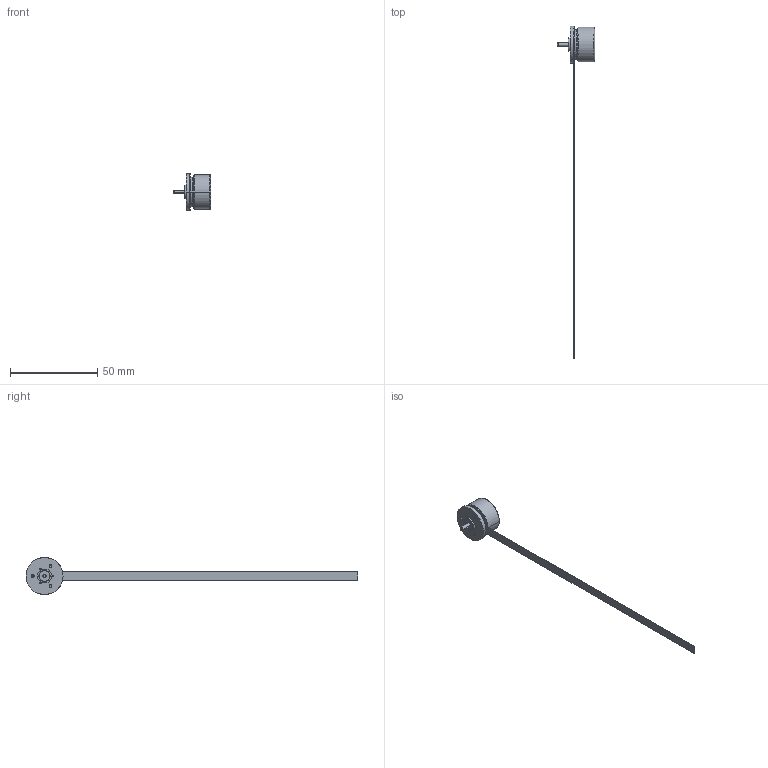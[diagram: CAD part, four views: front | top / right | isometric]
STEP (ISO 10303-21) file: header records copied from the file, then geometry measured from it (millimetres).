
FILE_DESCRIPTION((''),'2;1');
FILE_NAME('967352','2016-10-10T',('mmagpetk'),(''),'CREO PARAMETRIC BY PTC INC, 2016050','CREO PARAMETRIC BY PTC INC, 2016050','');
FILE_SCHEMA(('CONFIG_CONTROL_DESIGN'));
Length unit declared in the file: millimetre
Products named in the file (1): 967352
Bounding box: 21.5 x 190.1 x 21.2 mm (x, y, z)
Volume: 4451.5 mm3; surface area: 3666.6 mm2
Topology: 1 solids, 1 shells, 66 faces, 140 edges, 85 vertices
Faces by surface type: cylinder 31, plane 21, cone 8, revolution 4, torus 2
Entity records: 2298 total; most frequent: DIRECTION 334, CARTESIAN_POINT 325, ORIENTED_EDGE 268, AXIS2_PLACEMENT_3D 138, PRESENTATION_STYLE_ASSIGNMENT 135, STYLED_ITEM 135, CURVE_STYLE 134, EDGE_CURVE 134
